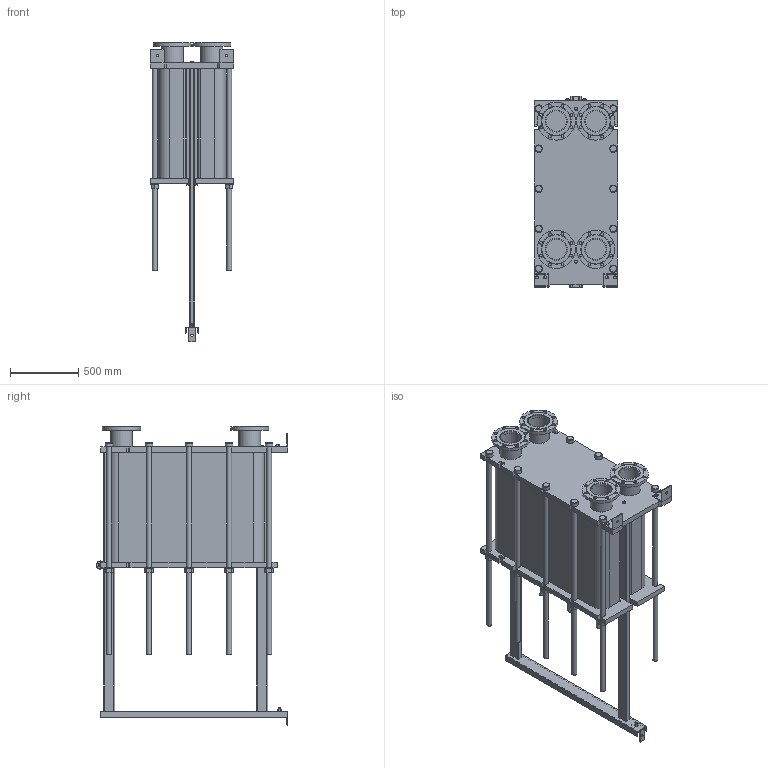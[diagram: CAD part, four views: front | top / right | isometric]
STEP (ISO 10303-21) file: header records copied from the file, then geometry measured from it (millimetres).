
FILE_DESCRIPTION(/* description */ (''),/* implementation_level */ '2;1');
FILE_NAME(/* name */ 'C:\Users\zhuro\Desktop\ENCO\TO\ЭН-041\ЭН-0,5-041-234-1.stp',/* time_stamp */ '2022-06-06T11:08:05+03:00',/* author */ ('zhuro'),/* organization */ (''),/* preprocessor_version */ 'ST-DEVELOPER v18.1',/* originating_system */ 'Autodesk Inventor 2022',/* authorisation */ '');
FILE_SCHEMA (('AUTOMOTIVE_DESIGN { 1 0 10303 214 3 1 1 }'));
Length unit declared in the file: millimetre
Products named in the file (1): ЭН-0,5-041-234-1
Bounding box: 610 x 1406.5 x 2195 mm (x, y, z)
Volume: 543945289.9 mm3; surface area: 11979101.2 mm2
Topology: 52 solids, 52 shells, 711 faces, 1696 edges, 1094 vertices
Faces by surface type: plane 487, cylinder 177, cone 41, torus 6
Full cylindrical faces by diameter (mm): 8 x4, 10 x2, 16 x8, 18 x3, 22 x32, 36 x24, 50 x1, 54 x10, 60 x12, 151 x4, 161 x8, 280 x4
Entity records: 22667 total; most frequent: CARTESIAN_POINT 5230, DIRECTION 3644, ORIENTED_EDGE 3392, EDGE_CURVE 1696, AXIS2_PLACEMENT_3D 1272, LINE 1100, VECTOR 1100, VERTEX_POINT 1094
